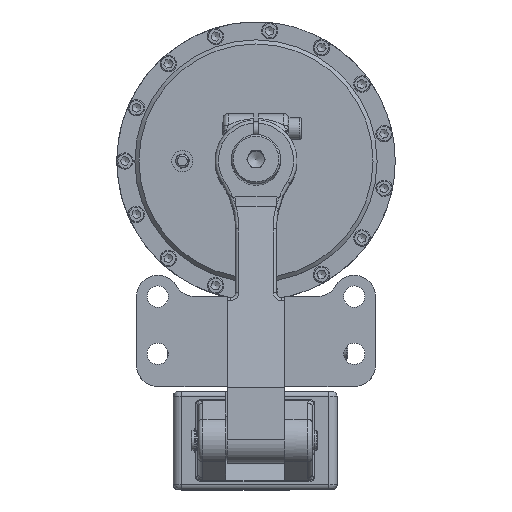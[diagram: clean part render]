
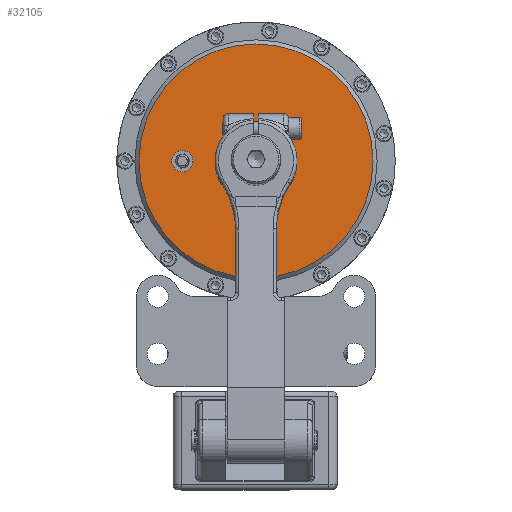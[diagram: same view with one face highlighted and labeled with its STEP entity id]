
A CAD part, top view. The second image highlights one B-rep face of the part: STEP entity #32105.
In plain terms, the highlighted planar face has unit normal (0, 0, 1).
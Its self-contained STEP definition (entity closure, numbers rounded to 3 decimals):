
#5820=FACE_BOUND('',#8795,.T.);
#5821=FACE_BOUND('',#8796,.T.);
#6943=FACE_OUTER_BOUND('',#8794,.T.);
#8794=EDGE_LOOP('',(#24688));
#8795=EDGE_LOOP('',(#24689,#24690));
#8796=EDGE_LOOP('',(#24691,#24692));
#10663=CIRCLE('',#34650,15.);
#10664=CIRCLE('',#34651,15.);
#10673=CIRCLE('',#34662,6.5);
#10674=CIRCLE('',#34663,6.5);
#10680=CIRCLE('',#34672,71.5);
#13113=VERTEX_POINT('',#65703);
#13114=VERTEX_POINT('',#65704);
#13131=VERTEX_POINT('',#65743);
#13132=VERTEX_POINT('',#65744);
#13138=VERTEX_POINT('',#65762);
#17178=EDGE_CURVE('',#13113,#13114,#10663,.T.);
#17179=EDGE_CURVE('',#13114,#13113,#10664,.T.);
#17198=EDGE_CURVE('',#13131,#13132,#10673,.T.);
#17199=EDGE_CURVE('',#13132,#13131,#10674,.T.);
#17208=EDGE_CURVE('',#13138,#13138,#10680,.T.);
#24688=ORIENTED_EDGE('',*,*,#17208,.F.);
#24689=ORIENTED_EDGE('',*,*,#17198,.T.);
#24690=ORIENTED_EDGE('',*,*,#17199,.T.);
#24691=ORIENTED_EDGE('',*,*,#17178,.T.);
#24692=ORIENTED_EDGE('',*,*,#17179,.T.);
#29096=PLANE('',#34673);
#32105=ADVANCED_FACE('',(#6943,#5820,#5821),#29096,.T.);
#34650=AXIS2_PLACEMENT_3D('',#65705,#40096,#40097);
#34651=AXIS2_PLACEMENT_3D('',#65706,#40098,#40099);
#34662=AXIS2_PLACEMENT_3D('',#65745,#40130,#40131);
#34663=AXIS2_PLACEMENT_3D('',#65746,#40132,#40133);
#34672=AXIS2_PLACEMENT_3D('',#65764,#40153,#40154);
#34673=AXIS2_PLACEMENT_3D('',#65765,#40155,#40156);
#40096=DIRECTION('center_axis',(0.,0.,
-1.));
#40097=DIRECTION('ref_axis',(1.,0.,0.));
#40098=DIRECTION('center_axis',(0.,0.,
-1.));
#40099=DIRECTION('ref_axis',(1.,0.,0.));
#40130=DIRECTION('center_axis',(0.,0.,
-1.));
#40131=DIRECTION('ref_axis',(0.,-1.,0.));
#40132=DIRECTION('center_axis',(0.,0.,
-1.));
#40133=DIRECTION('ref_axis',(0.,-1.,0.));
#40153=DIRECTION('center_axis',(0.,0.,
-1.));
#40154=DIRECTION('ref_axis',(-1.,0.,0.));
#40155=DIRECTION('center_axis',(0.,0.,
1.));
#40156=DIRECTION('ref_axis',(0.,-1.,0.));
#65703=CARTESIAN_POINT('',(62.,140.,-46.35));
#65704=CARTESIAN_POINT('',(32.,140.,-46.35));
#65705=CARTESIAN_POINT('Origin',(47.,140.,-46.35));
#65706=CARTESIAN_POINT('Origin',(47.,140.,-46.35));
#65743=CARTESIAN_POINT('',(2.,133.5,-46.35));
#65744=CARTESIAN_POINT('',(2.,146.5,-46.35));
#65745=CARTESIAN_POINT('Origin',(2.,140.,-46.35));
#65746=CARTESIAN_POINT('Origin',(2.,140.,-46.35));
#65762=CARTESIAN_POINT('',(118.5,140.,-46.35));
#65764=CARTESIAN_POINT('Origin',(47.,140.,-46.35));
#65765=CARTESIAN_POINT('Origin',(91.5,140.,-46.35));
